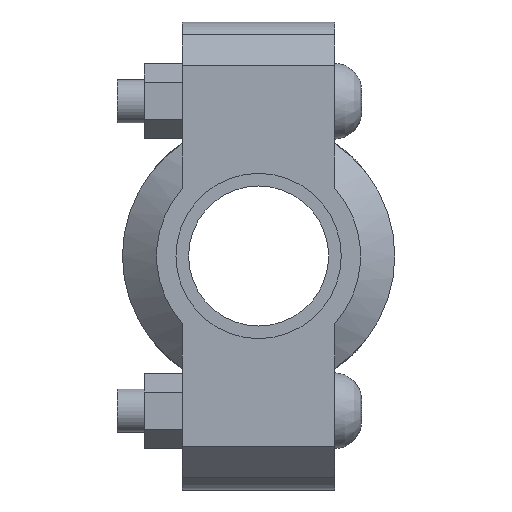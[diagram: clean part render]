
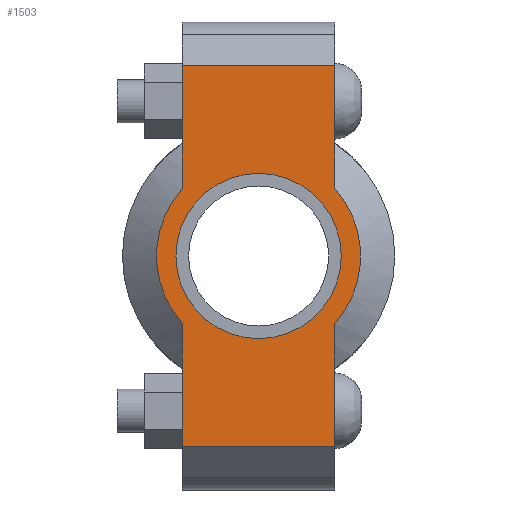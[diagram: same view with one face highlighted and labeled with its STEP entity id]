
A CAD part, left-side view. The second image highlights one B-rep face of the part: STEP entity #1503.
In plain terms, the highlighted planar face has unit normal (-1, 0, 0) as drawn and (0, 0, 1) by its records, which use the part's own axes.
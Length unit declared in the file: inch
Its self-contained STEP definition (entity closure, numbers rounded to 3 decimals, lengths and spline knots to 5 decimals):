
#114=LINE('',#2581,#209);
#129=LINE('',#2640,#224);
#137=LINE('',#2670,#232);
#139=LINE('',#2673,#234);
#140=LINE('',#2678,#235);
#141=LINE('',#2679,#236);
#209=VECTOR('',#2091,0.3937);
#224=VECTOR('',#2126,0.3937);
#232=VECTOR('',#2146,0.3937);
#234=VECTOR('',#2150,0.3937);
#235=VECTOR('',#2155,0.3937);
#236=VECTOR('',#2156,0.3937);
#296=FACE_BOUND('',#455,.T.);
#356=FACE_OUTER_BOUND('',#454,.T.);
#454=EDGE_LOOP('',(#1198,#1199,#1200,#1201,#1202,#1203,#1204,#1205));
#455=EDGE_LOOP('',(#1206));
#560=CIRCLE('',#1766,1.172);
#561=CIRCLE('',#1767,1.172);
#562=CIRCLE('',#1768,0.95);
#669=VERTEX_POINT('',#2578);
#670=VERTEX_POINT('',#2580);
#691=VERTEX_POINT('',#2635);
#692=VERTEX_POINT('',#2639);
#701=VERTEX_POINT('',#2665);
#702=VERTEX_POINT('',#2669);
#703=VERTEX_POINT('',#2675);
#704=VERTEX_POINT('',#2677);
#705=VERTEX_POINT('',#2681);
#839=EDGE_CURVE('',#670,#669,#114,.T.);
#864=EDGE_CURVE('',#692,#691,#129,.T.);
#877=EDGE_CURVE('',#702,#701,#137,.T.);
#879=EDGE_CURVE('',#702,#669,#139,.T.);
#880=EDGE_CURVE('',#701,#703,#560,.T.);
#881=EDGE_CURVE('',#703,#704,#140,.T.);
#882=EDGE_CURVE('',#692,#704,#141,.T.);
#883=EDGE_CURVE('',#691,#670,#561,.T.);
#884=EDGE_CURVE('',#705,#705,#562,.T.);
#1198=ORIENTED_EDGE('',*,*,#879,.F.);
#1199=ORIENTED_EDGE('',*,*,#877,.T.);
#1200=ORIENTED_EDGE('',*,*,#880,.T.);
#1201=ORIENTED_EDGE('',*,*,#881,.T.);
#1202=ORIENTED_EDGE('',*,*,#882,.F.);
#1203=ORIENTED_EDGE('',*,*,#864,.T.);
#1204=ORIENTED_EDGE('',*,*,#883,.T.);
#1205=ORIENTED_EDGE('',*,*,#839,.T.);
#1206=ORIENTED_EDGE('',*,*,#884,.T.);
#1355=PLANE('',#1765);
#1503=ADVANCED_FACE('',(#356,#296),#1355,.T.);
#1765=AXIS2_PLACEMENT_3D('',#2674,#2151,#2152);
#1766=AXIS2_PLACEMENT_3D('',#2676,#2153,#2154);
#1767=AXIS2_PLACEMENT_3D('',#2680,#2157,#2158);
#1768=AXIS2_PLACEMENT_3D('',#2682,#2159,#2160);
#2091=DIRECTION('',(1.,0.,0.));
#2126=DIRECTION('',(1.,0.,0.));
#2146=DIRECTION('',(-1.,0.,0.));
#2150=DIRECTION('',(0.,-1.,0.));
#2151=DIRECTION('center_axis',(0.,0.,1.));
#2152=DIRECTION('ref_axis',(-1.,0.,0.));
#2153=DIRECTION('center_axis',(0.,0.,1.));
#2154=DIRECTION('ref_axis',(1.,0.,0.));
#2155=DIRECTION('',(-1.,0.,0.));
#2156=DIRECTION('',(0.,1.,0.));
#2157=DIRECTION('center_axis',(0.,0.,1.));
#2158=DIRECTION('ref_axis',(1.,0.,0.));
#2159=DIRECTION('center_axis',(0.,0.,-1.));
#2160=DIRECTION('ref_axis',(1.,0.,0.));
#2578=CARTESIAN_POINT('',(2.19,-0.875,0.94));
#2580=CARTESIAN_POINT('',(0.77972,-0.875,0.94));
#2581=CARTESIAN_POINT('',(-2.69,-0.875,0.94));
#2635=CARTESIAN_POINT('',(-0.77972,-0.875,0.94));
#2639=CARTESIAN_POINT('',(-2.19,-0.875,0.94));
#2640=CARTESIAN_POINT('',(-2.69,-0.875,0.94));
#2665=CARTESIAN_POINT('',(0.77972,0.875,0.94));
#2669=CARTESIAN_POINT('',(2.19,0.875,0.94));
#2670=CARTESIAN_POINT('',(2.69,0.875,0.94));
#2673=CARTESIAN_POINT('',(2.19,-0.4375,0.94));
#2674=CARTESIAN_POINT('Origin',(0.,0.,
0.94));
#2675=CARTESIAN_POINT('',(-0.77972,0.875,0.94));
#2676=CARTESIAN_POINT('Origin',(0.,0.,0.94));
#2677=CARTESIAN_POINT('',(-2.19,0.875,0.94));
#2678=CARTESIAN_POINT('',(2.69,0.875,0.94));
#2679=CARTESIAN_POINT('',(-2.19,0.4375,0.94));
#2680=CARTESIAN_POINT('Origin',(0.,0.,0.94));
#2681=CARTESIAN_POINT('',(-0.95,0.,0.94));
#2682=CARTESIAN_POINT('Origin',(0.,0.,0.94));
